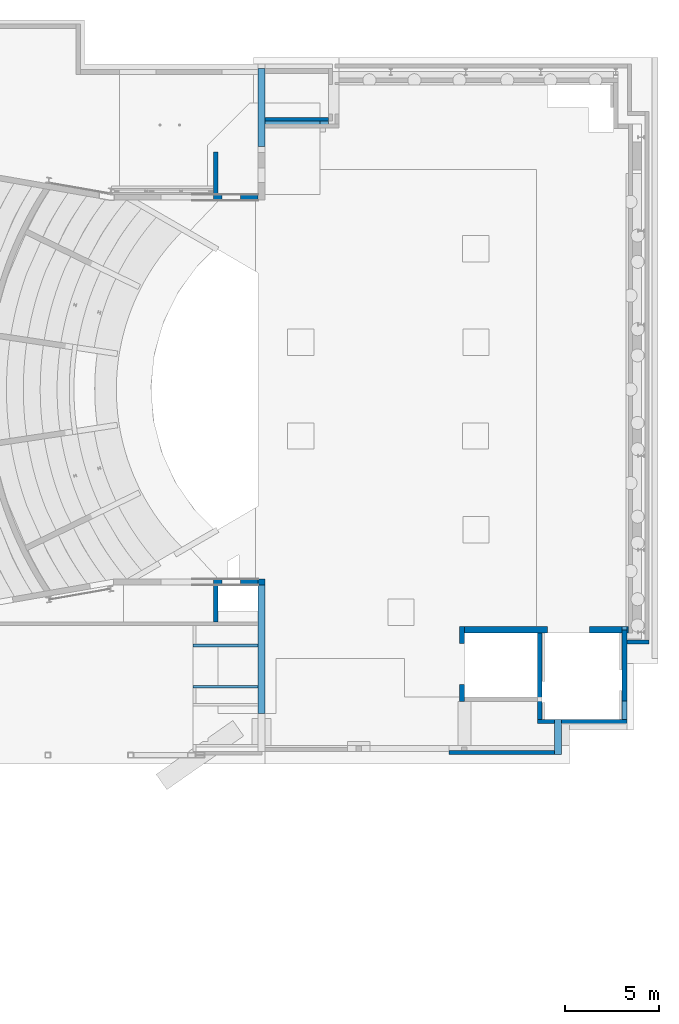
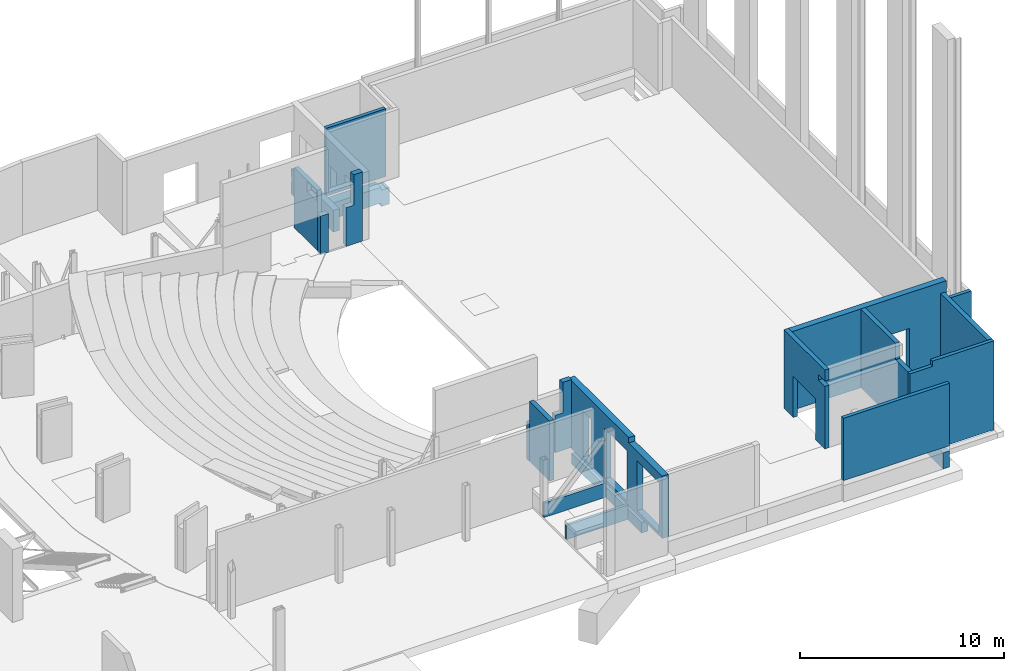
# One storey, part 27 of 34: 21 walls, 18 openings.
"""IFC2X3 building model written with IfcOpenShell, lengths in millimetres."""

from ifc_helpers import new_model, entity, si_unit, converted_unit, derived_unit, direction, frame, frame_2d, origin, place, context, subcontext, project, spatial, polyline, rectangle, extrude, clip, bounded_halfspace, material, layer, layer_set, layer_usage, type_object, element, save


model = new_model("IFC2X3")

# Units and contexts
model_context = context("Model", 3, precision=0.01, world=origin(), true_north=direction((6.12303176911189e-17, 1.0)))
body_context = subcontext(model_context, "Body", "Model", "MODEL_VIEW")
ifc_project = project(units=[si_unit("LENGTHUNIT", "METRE", prefix="MILLI"), si_unit("AREAUNIT", "SQUARE_METRE", prefix="MILLI"), si_unit("VOLUMEUNIT", "CUBIC_METRE"), converted_unit("PLANEANGLEUNIT", "DEGREE", entity("IfcRatioMeasure", 0.0174532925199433), si_unit("PLANEANGLEUNIT", "RADIAN"), dimensions=[0, 0, 0, 0, 0, 0, 0]), si_unit("MASSUNIT", "GRAM", prefix="KILO"), derived_unit("MASSDENSITYUNIT", [(si_unit("MASSUNIT", "GRAM", prefix="KILO"), 1), (si_unit("LENGTHUNIT", "METRE"), -3)]), derived_unit("MOMENTOFINERTIAUNIT", [(si_unit("LENGTHUNIT", "METRE"), 4)]), si_unit("TIMEUNIT", "SECOND"), si_unit("FREQUENCYUNIT", "HERTZ"), si_unit("THERMODYNAMICTEMPERATUREUNIT", "DEGREE_CELSIUS"), derived_unit("THERMALTRANSMITTANCEUNIT", [(si_unit("MASSUNIT", "GRAM", prefix="KILO"), 1), (si_unit("THERMODYNAMICTEMPERATUREUNIT", "KELVIN"), -1), (si_unit("TIMEUNIT", "SECOND"), -3)]), derived_unit("VOLUMETRICFLOWRATEUNIT", [(si_unit("LENGTHUNIT", "METRE"), 3), (si_unit("TIMEUNIT", "SECOND"), -1)]), si_unit("ELECTRICCURRENTUNIT", "AMPERE"), si_unit("ELECTRICVOLTAGEUNIT", "VOLT"), si_unit("POWERUNIT", "WATT"), si_unit("FORCEUNIT", "NEWTON", prefix="KILO"), si_unit("ILLUMINANCEUNIT", "LUX"), si_unit("LUMINOUSFLUXUNIT", "LUMEN"), si_unit("LUMINOUSINTENSITYUNIT", "CANDELA"), derived_unit("USERDEFINED", [(si_unit("MASSUNIT", "GRAM", prefix="KILO"), -1), (si_unit("LENGTHUNIT", "METRE"), -2), (si_unit("TIMEUNIT", "SECOND"), 3), (si_unit("LUMINOUSFLUXUNIT", "LUMEN"), 1)]), derived_unit("LINEARVELOCITYUNIT", [(si_unit("LENGTHUNIT", "METRE"), 1), (si_unit("TIMEUNIT", "SECOND"), -1)]), si_unit("PRESSUREUNIT", "PASCAL"), derived_unit("USERDEFINED", [(si_unit("LENGTHUNIT", "METRE"), -2), (si_unit("MASSUNIT", "GRAM", prefix="KILO"), 1), (si_unit("TIMEUNIT", "SECOND"), -2)]), derived_unit("LINEARFORCEUNIT", [(si_unit("MASSUNIT", "GRAM", prefix="KILO"), 1), (si_unit("LENGTHUNIT", "METRE"), 1), (si_unit("TIMEUNIT", "SECOND"), -2), (si_unit("LENGTHUNIT", "METRE"), -1)]), derived_unit("PLANARFORCEUNIT", [(si_unit("MASSUNIT", "GRAM", prefix="KILO"), 1), (si_unit("LENGTHUNIT", "METRE"), 1), (si_unit("TIMEUNIT", "SECOND"), -2), (si_unit("LENGTHUNIT", "METRE"), -2)])], contexts=[model_context])

# Site, building, storey
site_placement = place(None, origin())
site = spatial("IfcSite", under=ifc_project, at=site_placement, Name="Theater aan de Parade", CompositionType="ELEMENT")
building_placement = place(site_placement, origin())
building = spatial("IfcBuilding", under=site, at=building_placement, Name="Theater aan de Parade", CompositionType="ELEMENT")
storey_placement = place(building_placement, frame((0.0, 0.0, 3.49116848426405e-09)))
storey = spatial("IfcBuildingStorey", under=building, at=storey_placement, Name="00 begane grond", CompositionType="ELEMENT", Elevation=3.49116848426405e-09)

# Wall, opening
ifc_material_1 = material(Name="00_PBT_MAT_beton t.p.g._C30/37")
ifc_layer_1 = layer(ifc_material_1, 300.0)
ifc_layer_set_1 = layer_set([ifc_layer_1], Name="Basic Wall:28_PBT_WA_beton t.p.g._d=300_C30/37")
ifc_layer_usage_1 = layer_usage(ifc_layer_set_1, "AXIS2", "POSITIVE", -150.0)
wall_type_1 = type_object("IfcWallType", Name="Basic Wall:28_PBT_WA_beton t.p.g._d=300_C30/37", PredefinedType="STANDARD", material=ifc_layer_set_1)
wall_1_placement = place(storey_placement, frame((66420.0, 42700.0, 880.0)))
wall_1 = element("IfcWallStandardCase", 1, at=wall_1_placement, inside=storey, type_object=wall_type_1, material=ifc_layer_usage_1, Name="Basic Wall:28_PBT_WA_beton t.p.g._d=300_C30/37", ObjectType="Basic Wall:28_PBT_WA_beton t.p.g._d=300_C30/37", context=body_context, shape_type="SweptSolid", body=[
    extrude(rectangle(XDim=936.256100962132, YDim=300.000000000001, at=frame_2d((468.128050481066, 0.0), x_axis=(-1.0, 0.0))), origin(), (0.0, 0.0, 1.0), 4139.99999999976),
])
opening_1_placement = place(wall_1_placement, origin())
element("IfcOpeningElement", 2, at=opening_1_placement, cuts=wall_1, Name="Basic Wall:28_PBT_WA_beton t.p.g._d=300_C30/37", ObjectType="Opening", context=body_context, shape_type="SweptSolid", body=[
    extrude(rectangle(XDim=1819.99999999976, YDim=436.256100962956, at=frame_2d((0.0, 0.0), x_axis=(0.0, 1.0))), frame((218.128050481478, 150.0, 3230.0), z_axis=(0.0, -1.0, 0.0), x_axis=(-1.0, 0.0, 0.0)), (0.0, 0.0, 1.0), 300.0),
])

# Walls
ifc_layer_usage_2 = layer_usage(ifc_layer_set_1, "AXIS2", "POSITIVE", -150.0)
wall_2_placement = place(storey_placement, frame((64962.0520755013, 42700.0, 880.0)))
element("IfcWallStandardCase", 3, at=wall_2_placement, inside=storey, type_object=wall_type_1, material=ifc_layer_usage_2, Name="Basic Wall:28_PBT_WA_beton t.p.g._d=300_C30/37", ObjectType="Basic Wall:28_PBT_WA_beton t.p.g._d=300_C30/37", context=body_context, shape_type="Clipping", body=[
    clip(extrude(rectangle(XDim=457.947924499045, YDim=300.000000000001, at=frame_2d((228.973962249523, 0.0), x_axis=(-1.0, 0.0))), origin(), (0.0, 0.0, 1.0), 2320.0), bounded_halfspace(frame((250.0, -150.0, 80.0), z_axis=(0.0, 0.0, 1.0), x_axis=(0.0, -1.0, 0.0)), True, frame((250.0, -150.0, 80.0), z_axis=(0.0, 0.0, 1.0), x_axis=(0.0, -1.0, 0.0)), polyline([(0.0, 0.0), (0.0, 55.5241451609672), (-160.0, 207.94792449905), (-300.0, 207.94792449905), (-300.0, 0.0), (0.0, 0.0)]))),
])
ifc_layer_usage_3 = layer_usage(ifc_layer_set_1, "AXIS2", "NEGATIVE", 150.0)
wall_3_placement = place(storey_placement, frame((64962.0520755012, 22190.0, 960.0)))
element("IfcWallStandardCase", 4, at=wall_3_placement, inside=storey, type_object=wall_type_1, material=ifc_layer_usage_3, Name="Basic Wall:28_PBT_WA_beton t.p.g._d=300_C30/37", ObjectType="Basic Wall:28_PBT_WA_beton t.p.g._d=300_C30/37", context=body_context, shape_type="SweptSolid", body=[
    extrude(rectangle(XDim=457.947924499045, YDim=300.000000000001, at=frame_2d((228.973962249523, -6.11066752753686e-13), x_axis=(-1.0, 0.0))), origin(), (0.0, 0.0, 1.0), 2240.0),
])

# Wall, opening
ifc_layer_usage_4 = layer_usage(ifc_layer_set_1, "AXIS2", "NEGATIVE", 150.0)
wall_4_placement = place(storey_placement, frame((66420.0, 22190.0, 960.0)))
wall_4 = element("IfcWallStandardCase", 5, at=wall_4_placement, inside=storey, type_object=wall_type_1, material=ifc_layer_usage_4, Name="Basic Wall:28_PBT_WA_beton t.p.g._d=300_C30/37", ObjectType="Basic Wall:28_PBT_WA_beton t.p.g._d=300_C30/37", context=body_context, shape_type="SweptSolid", body=[
    extrude(rectangle(XDim=936.256100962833, YDim=300.000000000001, at=frame_2d((468.128050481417, -6.82121026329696e-13), x_axis=(-1.0, 0.0))), origin(), (0.0, 0.0, 1.0), 4060.0),
])
opening_2_placement = place(wall_4_placement, origin())
element("IfcOpeningElement", 6, at=opening_2_placement, cuts=wall_4, Name="Basic Wall:28_PBT_WA_beton t.p.g._d=300_C30/37", ObjectType="Opening", context=body_context, shape_type="SweptSolid", body=[
    extrude(rectangle(XDim=1820.0, YDim=436.256100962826, at=frame_2d((4.33431068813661e-12, 0.0), x_axis=(0.0, 1.0))), frame((218.128050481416, 150.0, 3150.0), z_axis=(0.0, -1.0, 0.0), x_axis=(-1.0, 0.0, 0.0)), (0.0, 0.0, 1.0), 300.0),
])

ifc_layer_2 = layer(ifc_material_1, 250.0)
ifc_layer_set_2 = layer_set([ifc_layer_2], Name="Basic Wall:28_PBT_WA_beton t.p.g._d=250_C30/37")
ifc_layer_usage_5 = layer_usage(ifc_layer_set_2, "AXIS2", "POSITIVE", -125.0)
wall_type_2 = type_object("IfcWallType", Name="Basic Wall:28_PBT_WA_beton t.p.g._d=250_C30/37", PredefinedType="STANDARD", material=ifc_layer_set_2)
wall_5_placement = place(storey_placement, frame((78225.1000324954, 15810.0, 880.0), z_axis=(0.0, 0.0, 1.0), x_axis=(0.0, 1.0, 0.0)))
wall_5 = element("IfcWallStandardCase", 7, at=wall_5_placement, inside=storey, type_object=wall_type_2, material=ifc_layer_usage_5, Name="Basic Wall:28_PBT_WA_beton t.p.g._d=250_C30/37", ObjectType="Basic Wall:28_PBT_WA_beton t.p.g._d=250_C30/37", context=body_context, shape_type="Clipping", body=[
    clip(clip(extrude(rectangle(XDim=4000.00024352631, YDim=250.000000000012, at=frame_2d((2000.00012176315, 0.0), x_axis=(-1.0, 0.0))), origin(), (0.0, 0.0, 1.0), 4719.99999999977), bounded_halfspace(frame((0.0, -125.0, 4720.0), z_axis=(0.0, 0.0, -1.0), x_axis=(0.0, 1.0, 0.0)), True, frame((0.0, -125.0, 4720.0), z_axis=(0.0, 0.0, -1.0), x_axis=(0.0, 1.0, 0.0)), polyline([(0.0, 0.0), (250.0, 0.0), (250.0, 4000.00024352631), (0.0, 4000.00024352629), (0.0, 3650.00024352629), (0.0, 0.0)]))), bounded_halfspace(frame((625.0, 125.0, 3740.0), z_axis=(1.0, 0.0, 0.0), x_axis=(0.0, 0.0, 1.0)), True, frame((625.0, 125.0, 3740.0), z_axis=(1.0, 0.0, 0.0), x_axis=(0.0, 0.0, 1.0)), polyline([(0.0, 0.0), (320.0, 0.0), (320.0, 250.0), (0.0, 250.0), (0.0, 0.0)]))),
])
opening_3_placement = place(wall_5_placement, origin())
element("IfcOpeningElement", 8, at=opening_3_placement, cuts=wall_5, Name="Basic Wall:28_PBT_WA_beton t.p.g._d=250_C30/37", ObjectType="Opening", context=body_context, shape_type="SweptSolid", body=[
    extrude(rectangle(XDim=2469.99999999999, YDim=2200.0, at=frame_2d((0.0, -1.13686837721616e-12), x_axis=(1.0, 0.0))), frame((1999.99609547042, -125.0, 1235.0), z_axis=(0.0, 1.0, 0.0), x_axis=(0.0, 0.0, -1.0)), (0.0, 0.0, 1.0), 250.000000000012),
])

# Walls
ifc_layer_usage_6 = layer_usage(ifc_layer_set_2, "AXIS2", "POSITIVE", -125.0)
wall_6_placement = place(storey_placement, frame((82375.0084217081, 19460.0002435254, 880.0), z_axis=(0.0, 0.0, 1.0), x_axis=(0.0, -1.0, 0.0)))
element("IfcWallStandardCase", 9, at=wall_6_placement, inside=storey, type_object=wall_type_2, material=ifc_layer_usage_6, Name="Basic Wall:28_PBT_WA_beton t.p.g._d=250_C30/37", ObjectType="Basic Wall:28_PBT_WA_beton t.p.g._d=250_C30/37", context=body_context, shape_type="Clipping", body=[
    clip(clip(extrude(rectangle(XDim=4610.00024352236, YDim=250.000000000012, at=frame_2d((2305.00012176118, -7.58859641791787e-12), x_axis=(-1.0, 0.0))), origin(), (0.0, 0.0, 1.0), 4719.99999999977), bounded_halfspace(frame((3400.00414805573, -125.0, 3740.0), z_axis=(0.0, 0.0, -1.0), x_axis=(0.0, -1.0, 0.0)), True, frame((3400.00414805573, -125.0, 3740.0)), polyline([(0.0, 0.0), (249.996095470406, 0.0), (1209.99609546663, 0.0), (1209.99609546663, 250.0), (0.0, 250.0), (0.0, 0.0)]))), bounded_halfspace(frame((0.0, -125.0, 4720.0), z_axis=(0.0, 0.0, -1.0), x_axis=(0.0, -1.0, 0.0)), True, frame((0.0, -125.0, 4720.0)), polyline([(0.0, 0.0), (3400.00414805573, 0.0), (3400.00414805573, 250.0), (0.0, 250.0), (0.0, 0.0)]))),
])
ifc_layer_usage_7 = layer_usage(ifc_layer_set_2, "AXIS2", "POSITIVE", -125.0)
wall_7_placement = place(storey_placement, frame((65087.0520755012, 20066.34014876, 960.0), z_axis=(0.0, 0.0, 1.0), x_axis=(0.0, 1.0, 0.0)))
element("IfcWallStandardCase", 10, at=wall_7_placement, inside=storey, type_object=wall_type_2, material=ifc_layer_usage_7, Name="Basic Wall:28_PBT_WA_beton t.p.g._d=250_C30/37", ObjectType="Basic Wall:28_PBT_WA_beton t.p.g._d=250_C30/37", context=body_context, shape_type="Clipping", body=[
    clip(extrude(rectangle(XDim=1973.65985123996, YDim=249.999999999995, at=frame_2d((986.829925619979, 0.0), x_axis=(-1.0, 0.0))), origin(), (0.0, 0.0, 1.0), 3599.99999999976), bounded_halfspace(frame((0.0, -125.0, 3600.0), z_axis=(0.0, 0.0, -1.0), x_axis=(0.0, 1.0, 0.0)), True, frame((0.0, -125.0, 3600.0)), polyline([(0.0, 0.0), (50.0, 0.0), (1973.65985123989, 0.0), (1973.65985123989, 250.0), (0.0, 250.0), (0.0, 0.0)]))),
])

# Wall, opening
ifc_layer_usage_8 = layer_usage(ifc_layer_set_2, "AXIS2", "POSITIVE", -125.0)
wall_8_placement = place(storey_placement, frame((65087.0520755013, 42850.0, 960.0), z_axis=(0.0, 0.0, 1.0), x_axis=(0.0, 1.0, 0.0)))
wall_8 = element("IfcWallStandardCase", 11, at=wall_8_placement, inside=storey, type_object=wall_type_2, material=ifc_layer_usage_8, Name="Basic Wall:28_PBT_WA_beton t.p.g._d=250_C30/37", ObjectType="Basic Wall:28_PBT_WA_beton t.p.g._d=250_C30/37", context=body_context, shape_type="Clipping", body=[
    clip(extrude(rectangle(XDim=2267.56217421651, YDim=249.999999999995, at=frame_2d((1133.78108710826, 2.31636931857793e-12), x_axis=(-1.0, 0.0))), origin(), (0.0, 0.0, 1.0), 3599.99999999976), bounded_halfspace(frame((0.0, -125.0, 3600.0), z_axis=(0.0, 0.0, -1.0), x_axis=(-1.0, 0.0, 0.0)), True, frame((0.0, -125.0, 3600.0)), polyline([(0.0, 0.0), (2267.56217421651, 0.0), (2267.56217421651, 250.0), (0.0, 250.0), (0.0, 0.0)]))),
])
opening_4_placement = place(wall_8_placement, origin())
element("IfcOpeningElement", 12, at=opening_4_placement, cuts=wall_8, Name="Basic Wall:28_PBT_WA_beton t.p.g._d=250_C30/37", ObjectType="Opening", context=body_context, shape_type="SweptSolid", body=[
    extrude(rectangle(XDim=599.999999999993, YDim=925.000000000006, at=frame_2d((-4.34852154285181e-12, 2.55795384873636e-13), x_axis=(0.0, 1.0))), frame((554.45836886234, -125.0, 3240.0), z_axis=(0.0, 1.0, 0.0), x_axis=(1.0, 0.0, 0.0)), (0.0, 0.0, 1.0), 249.999999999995),
])

# Wall, openings
ifc_layer_usage_9 = layer_usage(ifc_layer_set_2, "AXIS2", "NEGATIVE", 125.0)
wall_9_placement = place(storey_placement, frame((86891.0, 19810.0002435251, -390.0), z_axis=(0.0, 0.0, 1.0), x_axis=(0.0, -1.0, 0.0)))
wall_9 = element("IfcWallStandardCase", 13, at=wall_9_placement, inside=storey, type_object=wall_type_2, material=ifc_layer_usage_9, Name="Basic Wall:28_PBT_WA_beton t.p.g._d=250_C30/37", ObjectType="Basic Wall:28_PBT_WA_beton t.p.g._d=250_C30/37", context=body_context, shape_type="Clipping", body=[
    clip(clip(clip(clip(extrude(rectangle(XDim=4960.00024352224, YDim=250.000000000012, at=frame_2d((2480.00012176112, 3.48165940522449e-13), x_axis=(-1.0, 0.0))), origin(), (0.0, 0.0, 1.0), 5329.99999999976), bounded_halfspace(frame((1955.00024352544, 125.0, 100.0), z_axis=(0.0, 0.0, 1.0), x_axis=(0.0, -1.0, 0.0)), True, frame((1955.00024352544, 125.0, 100.0), z_axis=(0.0, 0.0, 1.0), x_axis=(0.0, -1.0, 0.0)), polyline([(0.0, 0.0), (0.0, -1294.99991149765), (0.0, -1955.00024352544), (250.0, -1955.00024352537), (250.0, 0.0), (0.0, 0.0)]))), bounded_halfspace(frame((1955.00024352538, -125.0, 100.0), z_axis=(1.0, 0.0, 0.0), x_axis=(0.0, 0.0, 1.0)), True, frame((1955.00024352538, -125.0, 100.0), z_axis=(1.0, 0.0, 0.0), x_axis=(0.0, 0.0, 1.0)), polyline([(0.0, 0.0), (-100.0, 0.0), (-100.0, -250.0), (0.0, -250.0), (0.0, 0.0)]))), bounded_halfspace(frame((660.000332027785, 125.0, 1270.0), z_axis=(0.0, 0.0, 1.0), x_axis=(0.0, -1.0, 0.0)), True, frame((660.000332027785, 125.0, 1270.0), z_axis=(0.0, 0.0, 1.0), x_axis=(0.0, -1.0, 0.0)), polyline([(0.0, 0.0), (0.0, -310.00033202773), (250.0, -310.000332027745), (250.0, 0.0), (0.0, 0.0)]))), bounded_halfspace(frame((660.000332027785, 125.0, 820.0), z_axis=(1.0, 0.0, 0.0), x_axis=(0.0, 0.0, 1.0)), True, frame((660.000332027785, 125.0, 820.0), z_axis=(1.0, 0.0, 0.0), x_axis=(0.0, 0.0, 1.0)), polyline([(0.0, 0.0), (450.0, 0.0), (450.0, 250.0), (0.0, 250.0), (0.0, 0.0)]))),
])
opening_5_placement = place(wall_9_placement, origin())
element("IfcOpeningElement", 14, at=opening_5_placement, cuts=wall_9, Name="Basic Wall:28_PBT_WA_beton t.p.g._d=250_C30/37", ObjectType="Opening", context=body_context, shape_type="SweptSolid", body=[
    extrude(rectangle(XDim=2599.99999999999, YDim=995.000000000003, at=frame_2d((0.0, 2.1600499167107e-12), x_axis=(1.0, 0.0))), frame((4462.50024352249, -125.0, 1640.0), z_axis=(0.0, 1.0, 0.0), x_axis=(0.0, 0.0, -1.0)), (0.0, 0.0, 1.0), 250.000000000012),
])
opening_6_placement = place(wall_9_placement, origin())
element("IfcOpeningElement", 15, at=opening_6_placement, cuts=wall_9, Name="Basic Wall:28_PBT_WA_beton t.p.g._d=250_C30/37", ObjectType="Opening", context=body_context, shape_type="SweptSolid", body=[
    extrude(rectangle(XDim=4509.99999999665, YDim=175.000000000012, at=frame_2d((0.0, -2.27373675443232e-13), x_axis=(0.0, 1.0))), frame((87.5000000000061, 125.0, 3075.0), z_axis=(0.0, -1.0, 0.0), x_axis=(-1.0, 0.0, 0.0)), (0.0, 0.0, 1.0), 250.0),
])

# Walls
ifc_layer_3 = layer(ifc_material_1, 200.0)
ifc_layer_set_3 = layer_set([ifc_layer_3], Name="Basic Wall:28_PBT_WA_beton t.p.g._d=200_C30/37")
ifc_layer_usage_10 = layer_usage(ifc_layer_set_3, "AXIS2", "POSITIVE", -100.0)
wall_type_3 = type_object("IfcWallType", Name="Basic Wall:28_PBT_WA_beton t.p.g._d=200_C30/37", PredefinedType="STANDARD", material=ifc_layer_set_3)
wall_10_placement = place(storey_placement, frame((77538.0, 13092.0, 880.0)))
element("IfcWallStandardCase", 16, at=wall_10_placement, inside=storey, type_object=wall_type_3, material=ifc_layer_usage_10, Name="Basic Wall:28_PBT_WA_beton t.p.g._d=200_C30/37", ObjectType="Basic Wall:28_PBT_WA_beton t.p.g._d=200_C30/37", context=body_context, shape_type="SweptSolid", body=[
    extrude(rectangle(XDim=5996.99999999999, YDim=200.000000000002, at=frame_2d((2998.49999999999, -1.27897692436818e-13), x_axis=(-1.0, 0.0))), origin(), (0.0, 0.0, 1.0), 3739.99999999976),
])
ifc_layer_usage_11 = layer_usage(ifc_layer_set_3, "AXIS2", "POSITIVE", -100.0)
wall_11_placement = place(storey_placement, frame((71107.1462854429, 46861.8723406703, 880.0), z_axis=(0.0, 0.0, 1.0), x_axis=(-1.0, 0.0, 0.0)))
element("IfcWallStandardCase", 17, at=wall_11_placement, inside=storey, type_object=wall_type_3, material=ifc_layer_usage_11, Name="Basic Wall:28_PBT_WA_beton t.p.g._d=200_C30/37", ObjectType="Basic Wall:28_PBT_WA_beton t.p.g._d=200_C30/37", context=body_context, shape_type="SweptSolid", body=[
    extrude(rectangle(XDim=3400.89018448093, YDim=200.000000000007, at=frame_2d((1700.44509224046, -1.61293201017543e-12), x_axis=(-1.0, 0.0))), origin(), (0.0, 0.0, 1.0), 4059.99999999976),
])

# Wall, opening
ifc_layer_usage_12 = layer_usage(ifc_layer_set_3, "AXIS2", "NEGATIVE", 100.0)
wall_12_placement = place(storey_placement, frame((82250.0084217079, 14750.0, -390.0)))
wall_12 = element("IfcWallStandardCase", 18, at=wall_12_placement, inside=storey, type_object=wall_type_3, material=ifc_layer_usage_12, Name="Basic Wall:28_PBT_WA_beton t.p.g._d=200_C30/37", ObjectType="Basic Wall:28_PBT_WA_beton t.p.g._d=200_C30/37", context=body_context, shape_type="Clipping", body=[
    clip(clip(clip(clip(clip(extrude(rectangle(XDim=4765.99157828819, YDim=200.000000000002, at=frame_2d((2382.99578914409, -2.98427949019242e-13), x_axis=(-1.0, 0.0))), origin(), (0.0, 0.0, 1.0), 5329.99999999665), bounded_halfspace(frame((1284.99157829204, 100.0, 1270.0), z_axis=(0.0, 0.0, 1.0), x_axis=(0.0, -1.0, 0.0)), True, frame((1284.99157829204, 100.0, 1270.0)), polyline([(0.0, 0.0), (-1034.99157829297, 0.0), (-1284.99157829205, 0.0), (-1284.99157829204, -200.0), (0.0, -200.0), (0.0, 0.0)]))), bounded_halfspace(frame((4765.99157828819, -100.0, 0.0), z_axis=(0.0, 0.0, 1.0), x_axis=(0.0, 1.0, 0.0)), True, frame((4765.99157828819, -100.0, 0.0)), polyline([(0.0, 0.0), (0.0, 200.0), (-250.0, 200.0), (-3481.0, 200.0), (-3481.0, 0.0), (0.0, 0.0)]))), bounded_halfspace(frame((1284.99157829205, -100.0, 5010.0), z_axis=(0.0, 0.0, -1.0), x_axis=(-1.0, 0.0, 0.0)), True, frame((1284.99157829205, -100.0, 5010.0), z_axis=(0.0, 0.0, -1.0), x_axis=(-1.0, 0.0, 0.0)), polyline([(0.0, 0.0), (1284.99157829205, 0.0), (1284.99157829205, 200.0), (1034.99157829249, 200.0), (0.0, 200.0), (0.0, 0.0)]))), bounded_halfspace(frame((1284.99157829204, 100.0, 5010.0), z_axis=(1.0, 0.0, 0.0), x_axis=(0.0, 0.0, 1.0)), True, frame((1284.99157829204, 100.0, 5010.0), z_axis=(1.0, 0.0, 0.0), x_axis=(0.0, 0.0, 1.0)), polyline([(0.0, 0.0), (320.0, -3.70189070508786e-08), (320.0, 200.0), (0.0, 200.0), (0.0, 0.0)]))), bounded_halfspace(frame((1284.99157829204, 100.0, 1270.0), z_axis=(0.0, 0.0, 1.0), x_axis=(0.0, -1.0, 0.0)), True, frame((1284.99157829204, 100.0, 1270.0)), polyline([(0.0, 0.0), (-1034.99157829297, 0.0), (-1284.99157829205, 0.0), (-1284.99157829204, -200.0), (0.0, -200.0), (0.0, 0.0)]))),
])
opening_7_placement = place(wall_12_placement, origin())
element("IfcOpeningElement", 19, at=opening_7_placement, cuts=wall_12, Name="Basic Wall:28_PBT_WA_beton t.p.g._d=200_C30/37", ObjectType="Opening", context=body_context, shape_type="SweptSolid", body=[
    extrude(rectangle(XDim=2599.99999999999, YDim=250.000000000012, at=frame_2d((8.66151594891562e-12, 0.0), x_axis=(0.0, 1.0))), frame((4640.9915782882, 100.0, 1640.0), z_axis=(0.0, 1.0, 0.0), x_axis=(-1.0, 0.0, 0.0)), (0.0, 0.0, 1.0), 995.000000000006),
])

# Wall
ifc_material_2 = material(Name="00_PBT_MAT_beton t.p.g._C53/65")
ifc_layer_4 = layer(ifc_material_2, 350.0)
ifc_layer_set_4 = layer_set([ifc_layer_4], Name="Basic Wall:28_PBT_WA_beton t.p.g._d=350_C53/65")
ifc_layer_usage_13 = layer_usage(ifc_layer_set_4, "AXIS2", "POSITIVE", -175.0)
wall_type_4 = type_object("IfcWallType", Name="Basic Wall:28_PBT_WA_beton t.p.g._d=350_C53/65", PredefinedType="STANDARD", material=ifc_layer_set_4)
wall_13_placement = place(storey_placement, frame((67531.256100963, 15170.0, -20.0), z_axis=(0.0, 0.0, 1.0), x_axis=(0.0, 1.0, 0.0)))
element("IfcWallStandardCase", 20, at=wall_13_placement, inside=storey, type_object=wall_type_4, material=ifc_layer_usage_13, Name="Basic Wall:28_PBT_WA_beton t.p.g._d=350_C53/65", ObjectType="Basic Wall:28_PBT_WA_beton t.p.g._d=350_C53/65", context=body_context, shape_type="SweptSolid", body=[
    extrude(rectangle(XDim=6870.0, YDim=350.000000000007, at=frame_2d((3435.0, 0.0), x_axis=(-1.0, 0.0))), origin(), (0.0, 0.0, 1.0), 629.999999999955),
])

# Wall, openings
ifc_layer_usage_14 = layer_usage(ifc_layer_set_4, "AXIS2", "NEGATIVE", 175.0)
wall_14_placement = place(storey_placement, frame((67531.2561009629, 13150.0, 880.0), z_axis=(0.0, 0.0, 1.0), x_axis=(0.0, 1.0, 0.0)))
wall_14 = element("IfcWallStandardCase", 21, at=wall_14_placement, inside=storey, type_object=wall_type_4, material=ifc_layer_usage_14, Name="Basic Wall:28_PBT_WA_beton t.p.g._d=350_C53/65", ObjectType="Basic Wall:28_PBT_WA_beton t.p.g._d=350_C53/65", context=body_context, shape_type="Clipping", body=[
    clip(clip(extrude(rectangle(XDim=9190.00000000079, YDim=350.000000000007, at=frame_2d((4595.0000000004, 0.0), x_axis=(-1.0, 0.0))), origin(), (0.0, 0.0, 1.0), 4059.99999999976), bounded_halfspace(frame((3285.0, -175.0, 3740.0), z_axis=(0.0, 0.0, -1.0), x_axis=(0.0, 1.0, 0.0)), True, frame((3285.0, -175.0, 3740.0), z_axis=(0.0, 0.0, -1.0), x_axis=(0.0, 1.0, 0.0)), polyline([(0.0, 0.0), (0.0, -3085.0), (0.0, -3285.0), (136.256100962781, -3285.0), (350.0, -3285.0), (350.0, 0.0), (0.0, 0.0)]))), bounded_halfspace(frame((3285.0, 175.0, 3740.0), z_axis=(1.0, 0.0, 0.0), x_axis=(0.0, 0.0, 1.0)), True, frame((3285.0, 175.0, 3740.0), z_axis=(1.0, 0.0, 0.0), x_axis=(0.0, 0.0, 1.0)), polyline([(0.0, 0.0), (320.0, 0.0), (320.0, 350.0), (0.0, 350.0), (0.0, 0.0)]))),
])
opening_8_placement = place(wall_14_placement, origin())
element("IfcOpeningElement", 22, at=opening_8_placement, cuts=wall_14, Name="Basic Wall:28_PBT_WA_beton t.p.g._d=350_C53/65", ObjectType="Opening", context=body_context, shape_type="SweptSolid", body=[
    extrude(rectangle(XDim=3009.99999999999, YDim=2200.0, at=frame_2d((-1.13686837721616e-12, -3.41060513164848e-13), x_axis=(0.0, 1.0))), frame((1394.91539591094, -175.0, 1665.0), z_axis=(0.0, 1.0, 0.0), x_axis=(1.0, 0.0, 0.0)), (0.0, 0.0, 1.0), 350.000000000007),
])
opening_9_placement = place(wall_14_placement, origin())
element("IfcOpeningElement", 23, at=opening_9_placement, cuts=wall_14, Name="Basic Wall:28_PBT_WA_beton t.p.g._d=350_C53/65", ObjectType="Opening", context=body_context, shape_type="SweptSolid", body=[
    extrude(rectangle(XDim=3009.99999999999, YDim=2200.0, at=frame_2d((-1.13686837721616e-12, -3.41060513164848e-13), x_axis=(0.0, 1.0))), frame((4550.93329090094, -175.0, 1665.0), z_axis=(0.0, 1.0, 0.0), x_axis=(1.0, 0.0, 0.0)), (0.0, 0.0, 1.0), 350.000000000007),
])
opening_10_placement = place(wall_14_placement, origin())
element("IfcOpeningElement", 24, at=opening_10_placement, cuts=wall_14, Name="Basic Wall:28_PBT_WA_beton t.p.g._d=350_C53/65", ObjectType="Opening", context=body_context, shape_type="SweptSolid", body=[
    extrude(rectangle(XDim=2764.99999999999, YDim=790.000000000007, at=frame_2d((2.18847162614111e-12, 0.0), x_axis=(0.0, 1.0))), frame((7391.34014876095, -175.0, 1537.49999999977), z_axis=(0.0, 1.0, 0.0), x_axis=(1.0, 0.0, 0.0)), (0.0, 0.0, 1.0), 350.000000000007),
])
opening_11_placement = place(wall_14_placement, origin())
element("IfcOpeningElement", 25, at=opening_11_placement, cuts=wall_14, Name="Basic Wall:28_PBT_WA_beton t.p.g._d=350_C53/65", ObjectType="Opening", context=body_context, shape_type="SweptSolid", body=[
    extrude(rectangle(XDim=2459.99999999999, YDim=1200.0, at=frame_2d((0.0, 0.0), x_axis=(0.0, 1.0))), frame((32556.564513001, -175.0, 1310.0), z_axis=(0.0, 1.0, 0.0), x_axis=(1.0, 0.0, 0.0)), (0.0, 0.0, 1.0), 350.000000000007),
])
opening_12_placement = place(wall_14_placement, origin())
element("IfcOpeningElement", 26, at=opening_12_placement, cuts=wall_14, Name="Basic Wall:28_PBT_WA_beton t.p.g._d=350_C53/65", ObjectType="Opening", context=body_context, shape_type="SweptSolid", body=[
    extrude(rectangle(XDim=2459.99999999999, YDim=249.999999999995, at=frame_2d((4.33431068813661e-12, 2.27373675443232e-13), x_axis=(0.0, 1.0))), frame((36236.9979908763, 175.0, 1310.0), z_axis=(0.0, 1.0, 0.0), x_axis=(1.0, 0.0, 0.0)), (0.0, 0.0, 1.0), 1934.0),
])
opening_13_placement = place(wall_14_placement, origin())
element("IfcOpeningElement", 27, at=opening_13_placement, cuts=wall_14, Name="Basic Wall:28_PBT_WA_beton t.p.g._d=350_C53/65", ObjectType="Opening", context=body_context, shape_type="SweptSolid", body=[
    extrude(rectangle(XDim=2764.99999999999, YDim=790.000000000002, at=frame_2d((4.34852154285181e-12, 0.0), x_axis=(0.0, 1.0))), frame((30725.9376260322, -175.0, 1537.49999999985), z_axis=(0.0, 1.0, 0.0), x_axis=(1.0, 0.0, 0.0)), (0.0, 0.0, 1.0), 350.000000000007),
])
opening_14_placement = place(wall_14_placement, origin())
element("IfcOpeningElement", 28, at=opening_14_placement, cuts=wall_14, Name="Basic Wall:28_PBT_WA_beton t.p.g._d=350_C53/65", ObjectType="Opening", context=body_context, shape_type="SweptSolid", body=[
    extrude(rectangle(XDim=2539.99999999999, YDim=1580.0, at=frame_2d((0.0, 0.0), x_axis=(0.0, 1.0))), frame((34776.8524363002, -175.0, 1350.0), z_axis=(0.0, 1.0, 0.0), x_axis=(1.0, 0.0, 0.0)), (0.0, 0.0, 1.0), 350.000000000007),
])
opening_15_placement = place(wall_14_placement, origin())
element("IfcOpeningElement", 29, at=opening_15_placement, cuts=wall_14, Name="Basic Wall:28_PBT_WA_beton t.p.g._d=350_C53/65", ObjectType="Opening", context=body_context, shape_type="SweptSolid", body=[
    extrude(rectangle(XDim=2499.99999999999, YDim=1054.00000000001, at=frame_2d((-1.08002495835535e-12, -1.02318153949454e-12), x_axis=(0.0, 1.0))), frame((2283.13868170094, -175.0, 5310.0), z_axis=(0.0, 1.0, 0.0), x_axis=(1.0, 0.0, 0.0)), (0.0, 0.0, 1.0), 350.000000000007),
])

# Wall
ifc_material_3 = material(Name="00_PBT_MAT_beton prefab")
ifc_layer_5 = layer(ifc_material_3, 200.0)
ifc_layer_set_5 = layer_set([ifc_layer_5], Name="Basic Wall:28_PBT_WA_beton prefab_d=200")
ifc_layer_usage_15 = layer_usage(ifc_layer_set_5, "AXIS2", "POSITIVE", -100.0)
wall_type_5 = type_object("IfcWallType", Name="Basic Wall:28_PBT_WA_beton prefab_d=200", PredefinedType="STANDARD", material=ifc_layer_set_5)
wall_15_placement = place(storey_placement, frame((87016.0, 18989.9999114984, -270.0)))
element("IfcWallStandardCase", 30, at=wall_15_placement, inside=storey, type_object=wall_type_5, material=ifc_layer_usage_15, Name="Basic Wall:28_PBT_WA_beton prefab_d=200", ObjectType="Basic Wall:28_PBT_WA_beton prefab_d=200", context=body_context, shape_type="SweptSolid", body=[
    extrude(rectangle(XDim=1170.00000000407, YDim=200.000000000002, at=frame_2d((585.000000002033, -1.20792265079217e-13), x_axis=(-1.0, 0.0))), origin(), (0.0, 0.0, 1.0), 5209.99999999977),
])

# Wall, opening
ifc_layer_6 = layer(ifc_material_1, 350.0)
ifc_layer_set_6 = layer_set([ifc_layer_6], Name="Basic Wall:28_PBT_WA_beton t.p.g._d=350_C30/37")
ifc_layer_usage_16 = layer_usage(ifc_layer_set_6, "AXIS2", "POSITIVE", -175.0)
wall_type_6 = type_object("IfcWallType", Name="Basic Wall:28_PBT_WA_beton t.p.g._d=350_C30/37", PredefinedType="STANDARD", material=ifc_layer_set_6)
wall_16_placement = place(storey_placement, frame((78350.1000324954, 19635.0002435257, 880.0)))
wall_16 = element("IfcWallStandardCase", 31, at=wall_16_placement, inside=storey, type_object=wall_type_6, material=ifc_layer_usage_16, Name="Basic Wall:28_PBT_WA_beton t.p.g._d=350_C30/37", ObjectType="Basic Wall:28_PBT_WA_beton t.p.g._d=350_C30/37", context=body_context, shape_type="Clipping", body=[
    clip(extrude(rectangle(XDim=8745.89996750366, YDim=349.999999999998, at=frame_2d((4372.94998375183, -7.53175299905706e-13), x_axis=(-1.0, 0.0))), origin(), (0.0, 0.0, 1.0), 4719.99999999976), bounded_halfspace(frame((0.0, -175.0, 4720.0), z_axis=(0.0, 0.0, -1.0), x_axis=(-1.0, 0.0, 0.0)), True, frame((0.0, -175.0, 4720.0)), polyline([(0.0, 0.0), (3899.90838921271, 0.0), (4149.90838921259, 0.0), (4149.90838921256, 350.0), (0.0, 350.0), (0.0, 0.0)]))),
])
opening_16_placement = place(wall_16_placement, origin())
element("IfcOpeningElement", 32, at=opening_16_placement, cuts=wall_16, Name="Basic Wall:28_PBT_WA_beton t.p.g._d=350_C30/37", ObjectType="Opening", context=body_context, shape_type="SweptSolid", body=[
    extrude(rectangle(XDim=2589.99999999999, YDim=2225.0, at=frame_2d((0.0, 0.0), x_axis=(0.0, 1.0))), frame((5553.40086186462, -175.0, 1295.0), z_axis=(0.0, 1.0, 0.0), x_axis=(1.0, 0.0, 0.0)), (0.0, 0.0, 1.0), 349.999999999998),
])

# Wall, openings
ifc_layer_7 = layer(ifc_material_2, 350.0)
ifc_layer_set_7 = layer_set([ifc_layer_7], Name="Basic Wall:16_PBT_WA_beton t.p.g._d=350_C53/65")
ifc_layer_usage_17 = layer_usage(ifc_layer_set_7, "AXIS2", "NEGATIVE", 175.0)
wall_type_7 = type_object("IfcWallType", Name="Basic Wall:16_PBT_WA_beton t.p.g._d=350_C53/65", PredefinedType="STANDARD", material=ifc_layer_set_7)
wall_17_placement = place(storey_placement, frame((67531.256100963, 45416.9998242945, -550.0), z_axis=(0.0, 0.0, 1.0), x_axis=(0.0, 1.0, 0.0)))
wall_17 = element("IfcWallStandardCase", 33, at=wall_17_placement, inside=storey, type_object=wall_type_7, material=ifc_layer_usage_17, Name="Basic Wall:16_PBT_WA_beton t.p.g._d=350_C53/65", ObjectType="Basic Wall:16_PBT_WA_beton t.p.g._d=350_C53/65", context=body_context, shape_type="Clipping", body=[
    clip(clip(clip(extrude(rectangle(XDim=4145.00017570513, YDim=350.000000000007, at=frame_2d((2072.50008785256, -1.4495071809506e-12), x_axis=(-1.0, 0.0))), origin(), (0.0, 0.0, 1.0), 1510.0), bounded_halfspace(frame((2305.00017570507, 175.0, 210.0), z_axis=(0.0, 0.0, 1.0), x_axis=(0.0, -1.0, 0.0)), True, frame((2305.00017570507, 175.0, 210.0), z_axis=(0.0, 0.0, 1.0), x_axis=(0.0, -1.0, 0.0)), polyline([(0.0, 0.0), (0.0, -2304.4361743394), (0.0, -2305.00017570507), (350.0, -2305.00017570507), (350.0, -1310.12765932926), (350.0, -760.127659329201), (350.0, 0.0), (0.0, 0.0)]))), bounded_halfspace(frame((2305.00017570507, -175.0, 210.0), z_axis=(1.0, 0.0, 0.0), x_axis=(0.0, 0.0, 1.0)), True, frame((2305.00017570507, -175.0, 210.0), z_axis=(1.0, 0.0, 0.0), x_axis=(0.0, 0.0, 1.0)), polyline([(0.0, 0.0), (-210.0, 0.0), (-210.0, -350.0), (0.0, -350.0), (0.0, 0.0)]))), bounded_halfspace(frame((4094.9981665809, -175.0, 710.0), z_axis=(-1.0, 0.0, 0.0), x_axis=(0.0, 0.0, 1.0)), True, frame((4094.9981665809, -175.0, 710.0), z_axis=(-1.0, 0.0, 0.0), x_axis=(0.0, 0.0, 1.0)), polyline([(0.0, 0.0), (300.0, 0.0), (300.0, 350.0), (0.0, 350.0), (0.0, 0.0)]))),
])
opening_17_placement = place(wall_17_placement, origin())
element("IfcOpeningElement", 34, at=opening_17_placement, cuts=wall_17, Name="Basic Wall:16_PBT_WA_beton t.p.g._d=350_C53/65", ObjectType="Opening", context=body_context, shape_type="SweptSolid", body=[
    extrude(rectangle(XDim=449.999999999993, YDim=740.000000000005, at=frame_2d((0.0, 0.0), x_axis=(0.0, 1.0))), frame((-1541.06219826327, -175.0, 787.45386150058), z_axis=(0.0, 1.0, 0.0), x_axis=(1.0, 0.0, 0.0)), (0.0, 0.0, 1.0), 350.000000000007),
])
opening_18_placement = place(wall_17_placement, origin())
element("IfcOpeningElement", 35, at=opening_18_placement, cuts=wall_17, Name="Basic Wall:16_PBT_WA_beton t.p.g._d=350_C53/65", ObjectType="Opening", context=body_context, shape_type="SweptSolid", body=[
    extrude(rectangle(XDim=2539.99999999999, YDim=1580.0, at=frame_2d((0.0, 0.0), x_axis=(0.0, 1.0))), frame((2509.85261200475, -175.0, 2780.0), z_axis=(0.0, 1.0, 0.0), x_axis=(1.0, 0.0, 0.0)), (0.0, 0.0, 1.0), 350.000000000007),
])

# Walls
ifc_layer_8 = layer(ifc_material_1, 150.0)
ifc_layer_set_8 = layer_set([ifc_layer_8], Name="Basic Wall:28_PBT_WA_beton t.p.g._d=150_C30/37")
ifc_layer_usage_18 = layer_usage(ifc_layer_set_8, "AXIS2", "NEGATIVE", 75.0)
wall_type_8 = type_object("IfcWallType", Name="Basic Wall:28_PBT_WA_beton t.p.g._d=150_C30/37", PredefinedType="STANDARD", material=ifc_layer_set_8)
wall_18_placement = place(storey_placement, frame((67356.256100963, 18796.7694591, -20.0), z_axis=(0.0, 0.0, 1.0), x_axis=(-1.0, 0.0, 0.0)))
element("IfcWallStandardCase", 36, at=wall_18_placement, inside=storey, type_object=wall_type_8, material=ifc_layer_usage_18, Name="Basic Wall:28_PBT_WA_beton t.p.g._d=150_C30/37", ObjectType="Basic Wall:28_PBT_WA_beton t.p.g._d=150_C30/37", context=body_context, shape_type="SweptSolid", body=[
    extrude(rectangle(XDim=3475.99654986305, YDim=150.000000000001, at=frame_2d((1737.99827493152, 3.76587649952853e-13), x_axis=(-1.0, 0.0))), origin(), (0.0, 0.0, 1.0), 860.000000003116),
])
ifc_layer_usage_19 = layer_usage(ifc_layer_set_8, "AXIS2", "POSITIVE", -75.0)
wall_19_placement = place(storey_placement, frame((67356.256100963, 16606.7694591, -20.0), z_axis=(0.0, 0.0, 1.0), x_axis=(-1.0, 0.0, 0.0)))
element("IfcWallStandardCase", 37, at=wall_19_placement, inside=storey, type_object=wall_type_8, material=ifc_layer_usage_19, Name="Basic Wall:28_PBT_WA_beton t.p.g._d=150_C30/37", ObjectType="Basic Wall:28_PBT_WA_beton t.p.g._d=150_C30/37", context=body_context, shape_type="SweptSolid", body=[
    extrude(rectangle(XDim=3475.99654986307, YDim=150.000000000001, at=frame_2d((1737.99827493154, 3.76587649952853e-13), x_axis=(-1.0, 0.0))), origin(), (0.0, 0.0, 1.0), 860.000000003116),
])
ifc_layer_9 = layer(ifc_material_1, 365.0)
ifc_layer_set_9 = layer_set([ifc_layer_9], Name="Basic Wall:16_PBT_WA_beton t.p.g._d=365_C30/37")
ifc_layer_usage_20 = layer_usage(ifc_layer_set_9, "AXIS2", "POSITIVE", -182.5)
wall_type_9 = type_object("IfcWallType", Name="Basic Wall:16_PBT_WA_beton t.p.g._d=365_C30/37", PredefinedType="STANDARD", material=ifc_layer_set_9)
wall_20_placement = place(storey_placement, frame((83352.5, 14850.0, -390.0), z_axis=(0.0, 0.0, 1.0), x_axis=(0.0, -1.0, 0.0)))
element("IfcWallStandardCase", 38, at=wall_20_placement, inside=storey, type_object=wall_type_9, material=ifc_layer_usage_20, Name="Basic Wall:16_PBT_WA_beton t.p.g._d=365_C30/37", ObjectType="Basic Wall:16_PBT_WA_beton t.p.g._d=365_C30/37", context=body_context, shape_type="SweptSolid", body=[
    extrude(rectangle(XDim=1858.00000000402, YDim=365.000000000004, at=frame_2d((929.000000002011, -6.60804744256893e-12), x_axis=(-1.0, 0.0))), origin(), (0.0, 0.0, 1.0), 970.000000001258),
])
ifc_layer_10 = layer(ifc_material_1, 550.0)
ifc_layer_set_10 = layer_set([ifc_layer_10], Name="Basic Wall:28_PBT_WA_beton t.p.g._d=550_C30/37")
ifc_layer_usage_21 = layer_usage(ifc_layer_set_10, "AXIS2", "NEGATIVE", 275.0)
wall_type_10 = type_object("IfcWallType", Name="Basic Wall:28_PBT_WA_beton t.p.g._d=550_C30/37", PredefinedType="STANDARD", material=ifc_layer_set_10)
wall_21_placement = place(storey_placement, frame((67706.256100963, 46686.8723406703, -550.0)))
element("IfcWallStandardCase", 39, at=wall_21_placement, inside=storey, type_object=wall_type_10, material=ifc_layer_usage_21, Name="Basic Wall:28_PBT_WA_beton t.p.g._d=550_C30/37", ObjectType="Basic Wall:28_PBT_WA_beton t.p.g._d=550_C30/37", context=body_context, shape_type="Clipping", body=[
    clip(clip(clip(clip(extrude(rectangle(XDim=3400.74389903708, YDim=549.999999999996, at=frame_2d((1700.37194951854, 2.70006239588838e-12), x_axis=(-1.0, 0.0))), origin(), (0.0, 0.0, 1.0), 1159.99999999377), bounded_halfspace(frame((2933.74389903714, 275.0, 980.0), z_axis=(0.0, 0.0, -1.0), x_axis=(1.0, 0.0, 0.0)), True, frame((2933.74389903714, 275.0, 980.0), z_axis=(0.0, 0.0, -1.0), x_axis=(1.0, 0.0, 0.0)), polyline([(0.0, 0.0), (467.0, 0.0), (467.0, 550.0), (300.0, 550.0), (0.0, 550.0), (0.0, 0.0)]))), bounded_halfspace(frame((2933.74389903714, -275.0, 980.0), z_axis=(-1.0, 0.0, 0.0), x_axis=(0.0, 0.0, 1.0)), True, frame((2933.74389903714, -275.0, 980.0), z_axis=(-1.0, 0.0, 0.0), x_axis=(0.0, 0.0, 1.0)), polyline([(0.0, 0.0), (180.0, 0.0), (180.0, 550.0), (0.0, 550.0), (0.0, 0.0)]))), bounded_halfspace(frame((2933.74389903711, 275.0, 210.0)), True, frame((2933.74389903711, 275.0, 210.0)), polyline([(0.0, 0.0), (-2933.7438990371, 0.0), (-2933.74389903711, -550.0), (0.0, -550.0), (0.0, 0.0)]))), bounded_halfspace(frame((2933.74389903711, -275.0, 210.0), z_axis=(1.0, 0.0, 0.0), x_axis=(0.0, 0.0, 1.0)), True, frame((2933.74389903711, -275.0, 210.0), z_axis=(1.0, 0.0, 0.0), x_axis=(0.0, 0.0, 1.0)), polyline([(0.0, 0.0), (-210.0, 0.0), (-210.0, -550.0), (0.0, -550.0), (0.0, 0.0)]))),
])

save(model, "model.ifc")
